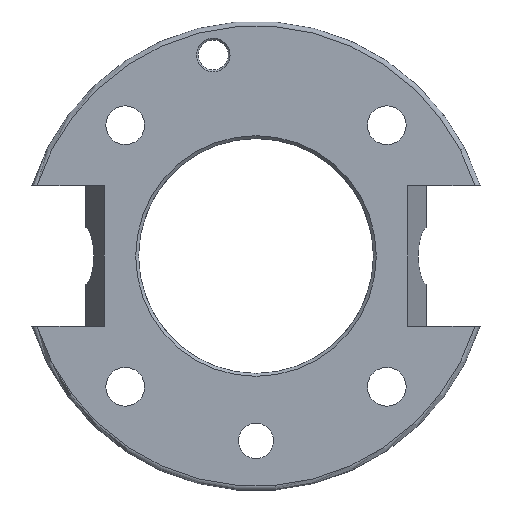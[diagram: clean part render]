
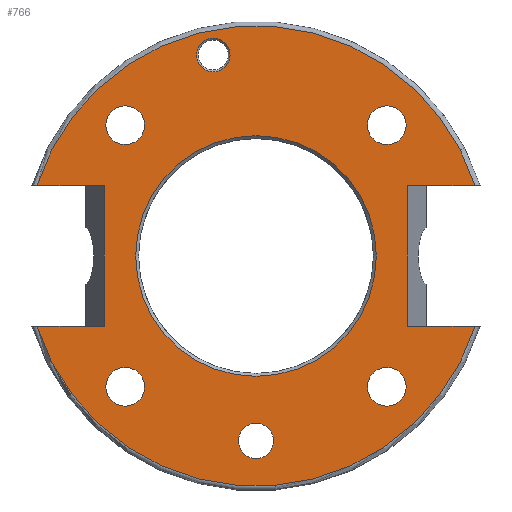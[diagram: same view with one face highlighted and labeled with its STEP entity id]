
A CAD part, front view. The second image highlights one B-rep face of the part: STEP entity #766.
In plain terms, the highlighted planar face has unit normal (0, -1, 0).
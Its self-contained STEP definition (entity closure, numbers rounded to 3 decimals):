
#36=FACE_BOUND('',#129,.T.);
#37=FACE_BOUND('',#130,.T.);
#38=FACE_BOUND('',#131,.T.);
#39=FACE_BOUND('',#132,.T.);
#40=FACE_BOUND('',#133,.T.);
#41=FACE_BOUND('',#134,.T.);
#42=FACE_BOUND('',#135,.T.);
#53=PLANE('',#831);
#87=FACE_OUTER_BOUND('',#128,.T.);
#128=EDGE_LOOP('',(#536,#537,#538,#539,#540,#541,#542,#543));
#129=EDGE_LOOP('',(#544));
#130=EDGE_LOOP('',(#545));
#131=EDGE_LOOP('',(#546));
#132=EDGE_LOOP('',(#547));
#133=EDGE_LOOP('',(#548));
#134=EDGE_LOOP('',(#549));
#135=EDGE_LOOP('',(#550));
#186=LINE('',#1175,#234);
#187=LINE('',#1177,#235);
#188=LINE('',#1179,#236);
#189=LINE('',#1183,#237);
#190=LINE('',#1185,#238);
#191=LINE('',#1186,#239);
#234=VECTOR('',#939,10.);
#235=VECTOR('',#940,10.);
#236=VECTOR('',#941,10.);
#237=VECTOR('',#944,10.);
#238=VECTOR('',#945,10.);
#239=VECTOR('',#946,10.);
#280=CIRCLE('',#826,2.85);
#284=CIRCLE('',#832,39.2);
#285=CIRCLE('',#833,39.2);
#286=CIRCLE('',#834,20.5);
#287=CIRCLE('',#835,3.);
#288=CIRCLE('',#836,3.3);
#289=CIRCLE('',#837,3.3);
#290=CIRCLE('',#838,3.3);
#291=CIRCLE('',#839,3.3);
#331=VERTEX_POINT('',#1159);
#335=VERTEX_POINT('',#1171);
#336=VERTEX_POINT('',#1172);
#337=VERTEX_POINT('',#1174);
#338=VERTEX_POINT('',#1176);
#339=VERTEX_POINT('',#1178);
#340=VERTEX_POINT('',#1180);
#341=VERTEX_POINT('',#1182);
#342=VERTEX_POINT('',#1184);
#343=VERTEX_POINT('',#1187);
#344=VERTEX_POINT('',#1189);
#345=VERTEX_POINT('',#1191);
#346=VERTEX_POINT('',#1193);
#347=VERTEX_POINT('',#1195);
#348=VERTEX_POINT('',#1197);
#411=EDGE_CURVE('',#331,#331,#280,.T.);
#417=EDGE_CURVE('',#335,#336,#284,.T.);
#418=EDGE_CURVE('',#335,#337,#186,.T.);
#419=EDGE_CURVE('',#337,#338,#187,.T.);
#420=EDGE_CURVE('',#338,#339,#188,.T.);
#421=EDGE_CURVE('',#340,#339,#285,.T.);
#422=EDGE_CURVE('',#340,#341,#189,.T.);
#423=EDGE_CURVE('',#341,#342,#190,.T.);
#424=EDGE_CURVE('',#342,#336,#191,.T.);
#425=EDGE_CURVE('',#343,#343,#286,.T.);
#426=EDGE_CURVE('',#344,#344,#287,.T.);
#427=EDGE_CURVE('',#345,#345,#288,.T.);
#428=EDGE_CURVE('',#346,#346,#289,.T.);
#429=EDGE_CURVE('',#347,#347,#290,.T.);
#430=EDGE_CURVE('',#348,#348,#291,.T.);
#536=ORIENTED_EDGE('',*,*,#417,.F.);
#537=ORIENTED_EDGE('',*,*,#418,.T.);
#538=ORIENTED_EDGE('',*,*,#419,.T.);
#539=ORIENTED_EDGE('',*,*,#420,.T.);
#540=ORIENTED_EDGE('',*,*,#421,.F.);
#541=ORIENTED_EDGE('',*,*,#422,.T.);
#542=ORIENTED_EDGE('',*,*,#423,.T.);
#543=ORIENTED_EDGE('',*,*,#424,.T.);
#544=ORIENTED_EDGE('',*,*,#425,.F.);
#545=ORIENTED_EDGE('',*,*,#426,.T.);
#546=ORIENTED_EDGE('',*,*,#427,.T.);
#547=ORIENTED_EDGE('',*,*,#428,.T.);
#548=ORIENTED_EDGE('',*,*,#429,.T.);
#549=ORIENTED_EDGE('',*,*,#430,.T.);
#550=ORIENTED_EDGE('',*,*,#411,.F.);
#766=ADVANCED_FACE('',(#87,#36,#37,#38,#39,#40,#41,#42),#53,.T.);
#826=AXIS2_PLACEMENT_3D('',#1160,#923,#924);
#831=AXIS2_PLACEMENT_3D('',#1170,#935,#936);
#832=AXIS2_PLACEMENT_3D('',#1173,#937,#938);
#833=AXIS2_PLACEMENT_3D('',#1181,#942,#943);
#834=AXIS2_PLACEMENT_3D('',#1188,#947,#948);
#835=AXIS2_PLACEMENT_3D('',#1190,#949,#950);
#836=AXIS2_PLACEMENT_3D('',#1192,#951,#952);
#837=AXIS2_PLACEMENT_3D('',#1194,#953,#954);
#838=AXIS2_PLACEMENT_3D('',#1196,#955,#956);
#839=AXIS2_PLACEMENT_3D('',#1198,#957,#958);
#923=DIRECTION('center_axis',(0.,-1.,0.));
#924=DIRECTION('ref_axis',(1.,0.,0.));
#935=DIRECTION('center_axis',(0.,-1.,0.));
#936=DIRECTION('ref_axis',(0.,0.,-1.));
#937=DIRECTION('center_axis',(0.,1.,0.));
#938=DIRECTION('ref_axis',(0.,0.,-1.));
#939=DIRECTION('',(-1.,0.,0.));
#940=DIRECTION('',(0.,0.,1.));
#941=DIRECTION('',(1.,0.,0.));
#942=DIRECTION('center_axis',(0.,1.,0.));
#943=DIRECTION('ref_axis',(0.,0.,1.));
#944=DIRECTION('',(1.,0.,0.));
#945=DIRECTION('',(0.,0.,-1.));
#946=DIRECTION('',(-1.,0.,0.));
#947=DIRECTION('center_axis',(0.,-1.,0.));
#948=DIRECTION('ref_axis',(1.,0.,0.));
#949=DIRECTION('center_axis',(0.,1.,0.));
#950=DIRECTION('ref_axis',(1.,0.,0.));
#951=DIRECTION('center_axis',(0.,1.,0.));
#952=DIRECTION('ref_axis',(1.,0.,0.));
#953=DIRECTION('center_axis',(0.,1.,0.));
#954=DIRECTION('ref_axis',(1.,0.,0.));
#955=DIRECTION('center_axis',(0.,1.,0.));
#956=DIRECTION('ref_axis',(1.,0.,0.));
#957=DIRECTION('center_axis',(0.,1.,0.));
#958=DIRECTION('ref_axis',(1.,0.,0.));
#1159=CARTESIAN_POINT('',(-10.127,0.,34.235));
#1160=CARTESIAN_POINT('Origin',(-7.277,0.,
34.235));
#1170=CARTESIAN_POINT('Origin',(-30.,0.,0.));
#1171=CARTESIAN_POINT('',(37.318,0.,-12.));
#1172=CARTESIAN_POINT('',(-37.318,0.,-12.));
#1173=CARTESIAN_POINT('Origin',(0.,0.,0.));
#1174=CARTESIAN_POINT('',(25.86,0.,-12.));
#1175=CARTESIAN_POINT('',(1.84,0.,-12.));
#1176=CARTESIAN_POINT('',(25.86,0.,12.));
#1177=CARTESIAN_POINT('',(25.86,0.,0.));
#1178=CARTESIAN_POINT('',(37.318,0.,12.));
#1179=CARTESIAN_POINT('',(1.84,0.,12.));
#1180=CARTESIAN_POINT('',(-37.318,0.,12.));
#1181=CARTESIAN_POINT('Origin',(0.,0.,0.));
#1182=CARTESIAN_POINT('',(-25.86,0.,12.));
#1183=CARTESIAN_POINT('',(-31.84,0.,12.));
#1184=CARTESIAN_POINT('',(-25.86,0.,-12.));
#1185=CARTESIAN_POINT('',(-25.86,0.,0.));
#1186=CARTESIAN_POINT('',(-31.84,0.,-12.));
#1187=CARTESIAN_POINT('',(-20.5,0.,0.));
#1188=CARTESIAN_POINT('Origin',(0.,0.,0.));
#1189=CARTESIAN_POINT('',(-3.,0.,-31.5));
#1190=CARTESIAN_POINT('Origin',(0.,0.,-31.5));
#1191=CARTESIAN_POINT('',(-25.574,0.,-22.274));
#1192=CARTESIAN_POINT('Origin',(-22.274,0.,-22.274));
#1193=CARTESIAN_POINT('',(-25.574,0.,22.274));
#1194=CARTESIAN_POINT('Origin',(-22.274,0.,22.274));
#1195=CARTESIAN_POINT('',(18.974,0.,22.274));
#1196=CARTESIAN_POINT('Origin',(22.274,0.,22.274));
#1197=CARTESIAN_POINT('',(18.974,0.,-22.274));
#1198=CARTESIAN_POINT('Origin',(22.274,0.,-22.274));
